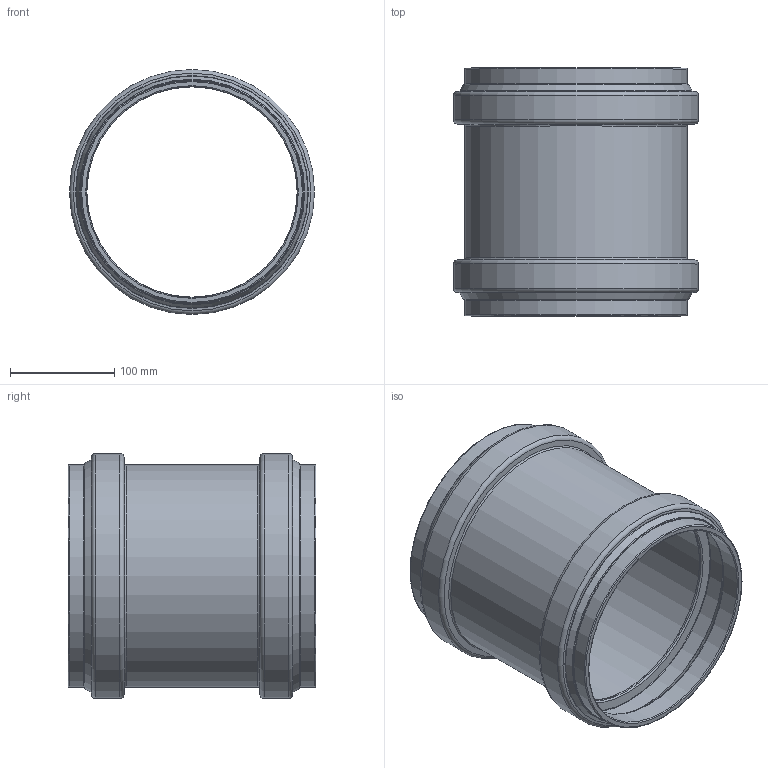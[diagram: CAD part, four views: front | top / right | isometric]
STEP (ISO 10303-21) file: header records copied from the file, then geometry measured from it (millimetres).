
FILE_DESCRIPTION(/* description */ (''),/* implementation_level */ '2;1');
FILE_NAME(/* name */ '778600z.stp',/* time_stamp */ '2025-12-03T12:15:56+01:00',/* author */ ('corinna'),/* organization */ (''),/* preprocessor_version */ 'ST-DEVELOPER v20',/* originating_system */ 'Autodesk Inventor 2024',/* authorisation */ '');
FILE_SCHEMA (('AUTOMOTIVE_DESIGN { 1 0 10303 214 3 1 1 }'));
Length unit declared in the file: millimetre
Products named in the file (1): 778600z
Bounding box: 234.8 x 237.6 x 234.8 mm (x, y, z)
Volume: 1064623.9 mm3; surface area: 363650.4 mm2
Topology: 1 solids, 1 shells, 60 faces, 168 edges, 112 vertices
Faces by surface type: torus 28, cone 16, cylinder 12, plane 4
Full cylindrical faces by diameter (mm): 201.5 x1, 201.8 x4, 213.3 x1, 213.6 x2, 223 x2, 234.8 x2
Entity records: 2079 total; most frequent: DIRECTION 430, CARTESIAN_POINT 341, ORIENTED_EDGE 336, AXIS2_PLACEMENT_3D 201, EDGE_CURVE 168, CIRCLE 140, VERTEX_POINT 112, EDGE_LOOP 64
